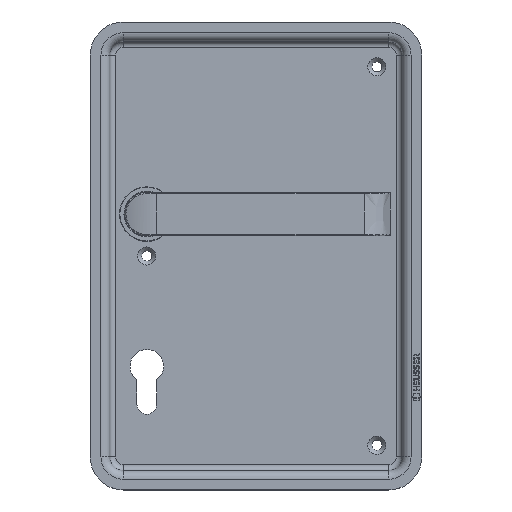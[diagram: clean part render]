
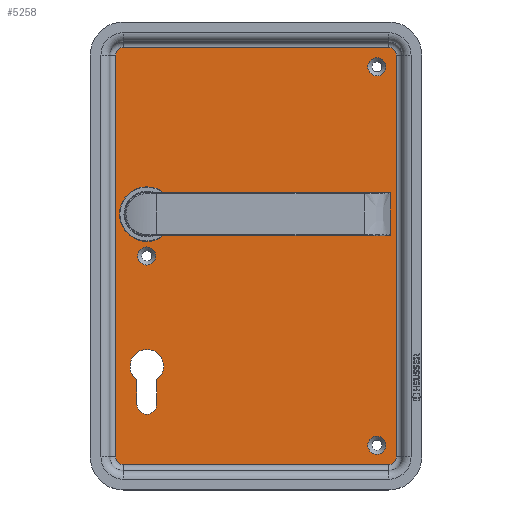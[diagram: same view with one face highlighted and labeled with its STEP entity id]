
A CAD part, top view. The second image highlights one B-rep face of the part: STEP entity #5258.
In plain terms, the highlighted planar face has unit normal (0, 0, 1).
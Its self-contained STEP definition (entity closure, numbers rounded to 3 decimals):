
#289=LINE('',#7405,#689);
#291=LINE('',#7423,#691);
#292=LINE('',#7426,#692);
#294=LINE('',#7443,#694);
#347=LINE('',#7667,#747);
#348=LINE('',#7670,#748);
#689=VECTOR('',#6114,10.);
#691=VECTOR('',#6136,10.);
#692=VECTOR('',#6139,10.);
#694=VECTOR('',#6161,10.);
#747=VECTOR('',#6418,10.);
#748=VECTOR('',#6421,10.);
#1163=FACE_BOUND('',#1635,.T.);
#1164=FACE_BOUND('',#1636,.T.);
#1165=FACE_BOUND('',#1637,.T.);
#1166=FACE_BOUND('',#1638,.T.);
#1167=FACE_BOUND('',#1639,.T.);
#1301=FACE_OUTER_BOUND('',#1634,.T.);
#1634=EDGE_LOOP('',(#3645,#3646,#3647,#3648,#3649,#3650,#3651,#3652));
#1635=EDGE_LOOP('',(#3653));
#1636=EDGE_LOOP('',(#3654,#3655,#3656,#3657));
#1637=EDGE_LOOP('',(#3658));
#1638=EDGE_LOOP('',(#3659));
#1639=EDGE_LOOP('',(#3660));
#1960=CIRCLE('',#5570,4.);
#1961=CIRCLE('',#5572,4.);
#1968=CIRCLE('',#5582,4.);
#1969=CIRCLE('',#5584,4.);
#2018=CIRCLE('',#5684,4.65);
#2019=CIRCLE('',#5686,4.65);
#2020=CIRCLE('',#5688,14.);
#2021=CIRCLE('',#5689,5.1);
#2022=CIRCLE('',#5690,8.6);
#2023=CIRCLE('',#5691,4.65);
#2143=VERTEX_POINT('',#7399);
#2145=VERTEX_POINT('',#7403);
#2147=VERTEX_POINT('',#7409);
#2148=VERTEX_POINT('',#7413);
#2151=VERTEX_POINT('',#7421);
#2152=VERTEX_POINT('',#7425);
#2155=VERTEX_POINT('',#7433);
#2156=VERTEX_POINT('',#7437);
#2217=VERTEX_POINT('',#7655);
#2218=VERTEX_POINT('',#7658);
#2219=VERTEX_POINT('',#7661);
#2220=VERTEX_POINT('',#7663);
#2221=VERTEX_POINT('',#7664);
#2222=VERTEX_POINT('',#7666);
#2223=VERTEX_POINT('',#7668);
#2224=VERTEX_POINT('',#7671);
#2645=EDGE_CURVE('',#2145,#2143,#289,.T.);
#2648=EDGE_CURVE('',#2147,#2145,#1960,.T.);
#2649=EDGE_CURVE('',#2143,#2148,#1961,.T.);
#2654=EDGE_CURVE('',#2151,#2147,#291,.T.);
#2655=EDGE_CURVE('',#2148,#2152,#292,.T.);
#2660=EDGE_CURVE('',#2155,#2151,#1968,.T.);
#2661=EDGE_CURVE('',#2152,#2156,#1969,.T.);
#2664=EDGE_CURVE('',#2156,#2155,#294,.T.);
#2765=EDGE_CURVE('',#2217,#2217,#2018,.T.);
#2766=EDGE_CURVE('',#2218,#2218,#2019,.T.);
#2767=EDGE_CURVE('',#2219,#2219,#2020,.T.);
#2768=EDGE_CURVE('',#2220,#2221,#2021,.T.);
#2769=EDGE_CURVE('',#2221,#2222,#347,.T.);
#2770=EDGE_CURVE('',#2222,#2223,#2022,.T.);
#2771=EDGE_CURVE('',#2223,#2220,#348,.T.);
#2772=EDGE_CURVE('',#2224,#2224,#2023,.T.);
#3645=ORIENTED_EDGE('',*,*,#2664,.F.);
#3646=ORIENTED_EDGE('',*,*,#2661,.F.);
#3647=ORIENTED_EDGE('',*,*,#2655,.F.);
#3648=ORIENTED_EDGE('',*,*,#2649,.F.);
#3649=ORIENTED_EDGE('',*,*,#2645,.F.);
#3650=ORIENTED_EDGE('',*,*,#2648,.F.);
#3651=ORIENTED_EDGE('',*,*,#2654,.F.);
#3652=ORIENTED_EDGE('',*,*,#2660,.F.);
#3653=ORIENTED_EDGE('',*,*,#2767,.T.);
#3654=ORIENTED_EDGE('',*,*,#2768,.T.);
#3655=ORIENTED_EDGE('',*,*,#2769,.T.);
#3656=ORIENTED_EDGE('',*,*,#2770,.T.);
#3657=ORIENTED_EDGE('',*,*,#2771,.T.);
#3658=ORIENTED_EDGE('',*,*,#2766,.F.);
#3659=ORIENTED_EDGE('',*,*,#2765,.F.);
#3660=ORIENTED_EDGE('',*,*,#2772,.F.);
#4759=PLANE('',#5687);
#5258=ADVANCED_FACE('',(#1301,#1163,#1164,#1165,#1166,#1167),#4759,.T.);
#5570=AXIS2_PLACEMENT_3D('',#7411,#6121,#6122);
#5572=AXIS2_PLACEMENT_3D('',#7414,#6125,#6126);
#5582=AXIS2_PLACEMENT_3D('',#7435,#6149,#6150);
#5584=AXIS2_PLACEMENT_3D('',#7438,#6153,#6154);
#5684=AXIS2_PLACEMENT_3D('',#7656,#6406,#6407);
#5686=AXIS2_PLACEMENT_3D('',#7659,#6410,#6411);
#5687=AXIS2_PLACEMENT_3D('',#7660,#6412,#6413);
#5688=AXIS2_PLACEMENT_3D('',#7662,#6414,#6415);
#5689=AXIS2_PLACEMENT_3D('',#7665,#6416,#6417);
#5690=AXIS2_PLACEMENT_3D('',#7669,#6419,#6420);
#5691=AXIS2_PLACEMENT_3D('',#7672,#6422,#6423);
#6114=DIRECTION('',(0.,-1.,0.));
#6121=DIRECTION('center_axis',(0.,0.,-1.));
#6122=DIRECTION('ref_axis',(0.707,0.707,0.));
#6125=DIRECTION('center_axis',(0.,0.,-1.));
#6126=DIRECTION('ref_axis',(0.707,-0.707,0.));
#6136=DIRECTION('',(1.,0.,0.));
#6139=DIRECTION('',(-1.,0.,0.));
#6149=DIRECTION('center_axis',(0.,0.,-1.));
#6150=DIRECTION('ref_axis',(-0.707,0.707,0.));
#6153=DIRECTION('center_axis',(0.,0.,-1.));
#6154=DIRECTION('ref_axis',(-0.707,-0.707,0.));
#6161=DIRECTION('',(0.,1.,0.));
#6406=DIRECTION('center_axis',(0.,0.,1.));
#6407=DIRECTION('ref_axis',(-1.,0.,0.));
#6410=DIRECTION('center_axis',(0.,0.,1.));
#6411=DIRECTION('ref_axis',(-1.,0.,0.));
#6412=DIRECTION('center_axis',(0.,0.,1.));
#6413=DIRECTION('ref_axis',(1.,0.,0.));
#6414=DIRECTION('center_axis',(0.,0.,-1.));
#6415=DIRECTION('ref_axis',(1.,0.,0.));
#6416=DIRECTION('center_axis',(0.,0.,-1.));
#6417=DIRECTION('ref_axis',(1.,0.,0.));
#6418=DIRECTION('',(0.,1.,0.));
#6419=DIRECTION('center_axis',(0.,0.,-1.));
#6420=DIRECTION('ref_axis',(-0.593,0.805,0.));
#6421=DIRECTION('',(0.,-1.,0.));
#6422=DIRECTION('center_axis',(0.,0.,1.));
#6423=DIRECTION('ref_axis',(-1.,0.,0.));
#7399=CARTESIAN_POINT('',(70.865,-93.546,-5.5));
#7403=CARTESIAN_POINT('',(70.865,112.454,-5.5));
#7405=CARTESIAN_POINT('',(70.865,60.954,-5.5));
#7409=CARTESIAN_POINT('',(66.865,116.454,-5.5));
#7411=CARTESIAN_POINT('Origin',(66.865,112.454,-5.5));
#7413=CARTESIAN_POINT('',(66.865,-97.546,-5.5));
#7414=CARTESIAN_POINT('Origin',(66.865,-93.546,-5.5));
#7421=CARTESIAN_POINT('',(-69.135,116.454,-5.5));
#7423=CARTESIAN_POINT('',(-35.135,116.454,-5.5));
#7425=CARTESIAN_POINT('',(-69.135,-97.546,-5.5));
#7426=CARTESIAN_POINT('',(32.865,-97.546,-5.5));
#7433=CARTESIAN_POINT('',(-73.135,112.454,-5.5));
#7435=CARTESIAN_POINT('Origin',(-69.135,112.454,-5.5));
#7437=CARTESIAN_POINT('',(-73.135,-93.546,-5.5));
#7438=CARTESIAN_POINT('Origin',(-69.135,-93.546,-5.5));
#7443=CARTESIAN_POINT('',(-73.135,-42.046,-5.5));
#7655=CARTESIAN_POINT('',(65.515,-87.546,-5.5));
#7656=CARTESIAN_POINT('Origin',(60.865,-87.546,-5.5));
#7658=CARTESIAN_POINT('',(65.515,106.454,-5.5));
#7659=CARTESIAN_POINT('Origin',(60.865,106.454,-5.5));
#7660=CARTESIAN_POINT('Origin',(-1.135,9.454,-5.5));
#7661=CARTESIAN_POINT('',(-71.135,30.954,-5.5));
#7662=CARTESIAN_POINT('Origin',(-57.135,30.954,-5.5));
#7663=CARTESIAN_POINT('',(-52.035,-66.546,-5.5));
#7664=CARTESIAN_POINT('',(-62.235,-66.546,-5.5));
#7665=CARTESIAN_POINT('Origin',(-57.135,-66.546,-5.5));
#7666=CARTESIAN_POINT('',(-62.235,-53.97,-5.5));
#7667=CARTESIAN_POINT('',(-62.235,-28.546,-5.5));
#7668=CARTESIAN_POINT('',(-52.035,-53.97,-5.5));
#7669=CARTESIAN_POINT('Origin',(-57.135,-47.046,-5.5));
#7670=CARTESIAN_POINT('',(-52.035,-22.258,-5.5));
#7671=CARTESIAN_POINT('',(-52.485,9.454,-5.5));
#7672=CARTESIAN_POINT('Origin',(-57.135,9.454,-5.5));
